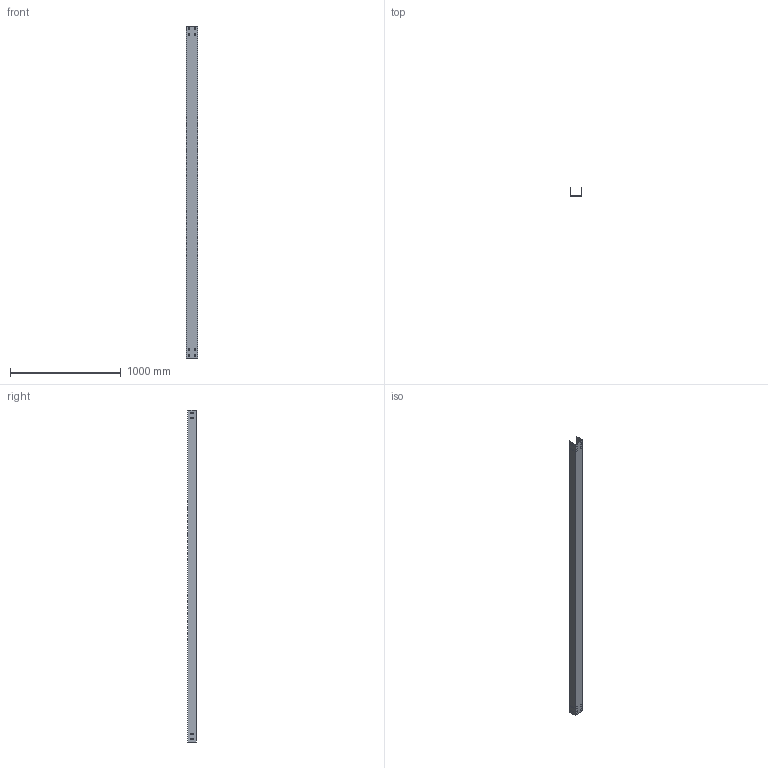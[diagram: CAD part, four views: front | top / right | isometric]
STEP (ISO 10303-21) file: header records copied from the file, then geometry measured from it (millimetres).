
FILE_DESCRIPTION (( 'STEP AP214' ), '1' );
FILE_NAME ('CF_107.step', '2025-07-16T09:05:16', ( '' ), ( '' ), 'SwSTEP 2.0', 'SolidWorks 2023', '' );
FILE_SCHEMA (( 'AUTOMOTIVE_DESIGN' ));
Length unit declared in the file: millimetre
Products named in the file (1): CF_107
Bounding box: 100 x 75 x 3000 mm (x, y, z)
Volume: 1108140 mm3; surface area: 1488725 mm2
Topology: 1 solids, 1 shells, 106 faces, 312 edges, 208 vertices
Faces by surface type: plane 106
Entity records: 3575 total; most frequent: CARTESIAN_POINT 627, ORIENTED_EDGE 624, DIRECTION 526, EDGE_CURVE 312, LINE 312, VECTOR 312, VERTEX_POINT 208, EDGE_LOOP 154
